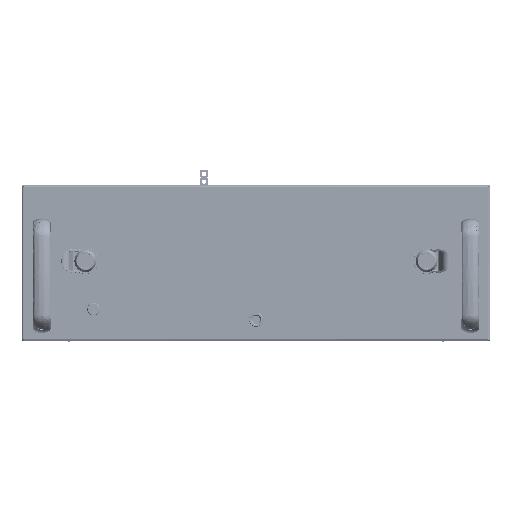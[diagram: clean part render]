
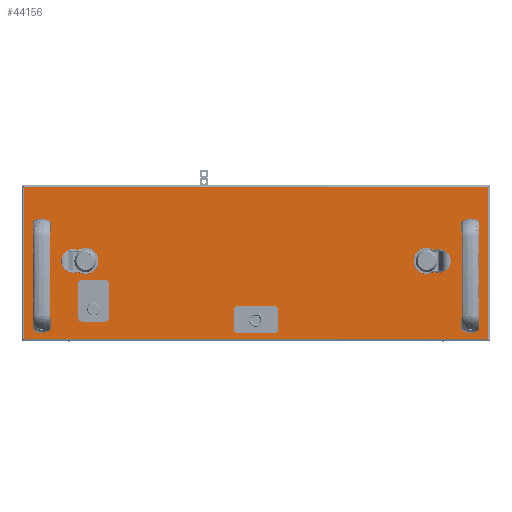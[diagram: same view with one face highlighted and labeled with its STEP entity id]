
A CAD part, front view. The second image highlights one B-rep face of the part: STEP entity #44156.
In plain terms, the highlighted planar face has unit normal (0, -1, 0) as drawn and (0, 0, 1) by its records, which use the part's own axes.
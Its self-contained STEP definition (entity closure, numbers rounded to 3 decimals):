
#41791=CARTESIAN_POINT(' ',(591.7,194.7,0.));
#41796=DIRECTION(' ',(-1.,0.,0.));
#41801=VECTOR(' ',#41796,1.);
#41806=LINE('',#41791,#41801);
#41811=CARTESIAN_POINT(' ',(591.7,194.7,0.));
#41812=VERTEX_POINT(' ',#41811);
#41816=CARTESIAN_POINT(' ',(2.3,194.7,0.));
#41817=VERTEX_POINT(' ',#41816);
#41821=EDGE_CURVE(' ',#41812,#41817,#41806,.T.);
#43346=DIRECTION(' ',(-0.,-0.,1.));
#43351=CARTESIAN_POINT(' ',(591.7,2.3,0.));
#43356=DIRECTION(' ',(0.,1.,0.));
#43361=AXIS2_PLACEMENT_3D(' ',#43351,#43346,#43356);
#43366=PLANE('NONE',#43361);
#43371=CARTESIAN_POINT(' ',(2.3,2.3,0.));
#43376=DIRECTION(' ',(1.,0.,0.));
#43381=VECTOR(' ',#43376,1.);
#43386=LINE('',#43371,#43381);
#43391=CARTESIAN_POINT(' ',(2.3,2.3,0.));
#43392=VERTEX_POINT(' ',#43391);
#43396=CARTESIAN_POINT(' ',(591.7,2.3,0.));
#43397=VERTEX_POINT(' ',#43396);
#43401=EDGE_CURVE(' ',#43392,#43397,#43386,.T.);
#43406=ORIENTED_EDGE(' ',*,*,#43401,.T.);
#43411=CARTESIAN_POINT(' ',(591.7,194.7,0.));
#43416=DIRECTION(' ',(0.,-1.,0.));
#43421=VECTOR(' ',#43416,1.);
#43426=LINE('',#43411,#43421);
#43431=EDGE_CURVE(' ',#41812,#43397,#43426,.T.);
#43436=ORIENTED_EDGE(' ',*,*,#43431,.F.);
#43441=ORIENTED_EDGE(' ',*,*,#41821,.T.);
#43446=CARTESIAN_POINT(' ',(2.3,194.7,0.));
#43451=DIRECTION(' ',(0.,-1.,0.));
#43456=VECTOR(' ',#43451,1.);
#43461=LINE('',#43446,#43456);
#43466=EDGE_CURVE(' ',#41817,#43392,#43461,.T.);
#43471=ORIENTED_EDGE(' ',*,*,#43466,.T.);
#43476=EDGE_LOOP(' ',(#43406,#43436,#43441,#43471));
#43481=FACE_OUTER_BOUND(' ',#43476,.T.);
#43486=CARTESIAN_POINT(' ',(110.85,30.,0.));
#43491=DIRECTION(' ',(0.,1.,0.));
#43496=VECTOR(' ',#43491,1.);
#43501=LINE('',#43486,#43496);
#43506=CARTESIAN_POINT(' ',(110.85,30.,0.));
#43507=VERTEX_POINT(' ',#43506);
#43511=CARTESIAN_POINT(' ',(110.85,71.,0.));
#43512=VERTEX_POINT(' ',#43511);
#43516=EDGE_CURVE(' ',#43507,#43512,#43501,.T.);
#43521=ORIENTED_EDGE(' ',*,*,#43516,.F.);
#43526=CARTESIAN_POINT(' ',(104.85,30.,0.));
#43531=DIRECTION(' ',(0.,-0.,1.));
#43536=DIRECTION(' ',(0.,-1.,0.));
#43541=AXIS2_PLACEMENT_3D(' ',#43526,#43531,#43536);
#43546=CIRCLE('',#43541,6.);
#43551=CARTESIAN_POINT(' ',(104.85,24.,0.));
#43552=VERTEX_POINT(' ',#43551);
#43556=EDGE_CURVE(' ',#43552,#43507,#43546,.T.);
#43561=ORIENTED_EDGE(' ',*,*,#43556,.F.);
#43566=CARTESIAN_POINT(' ',(76.85,24.,0.));
#43571=DIRECTION(' ',(1.,0.,0.));
#43576=VECTOR(' ',#43571,1.);
#43581=LINE('',#43566,#43576);
#43586=CARTESIAN_POINT(' ',(76.85,24.,0.));
#43587=VERTEX_POINT(' ',#43586);
#43591=EDGE_CURVE(' ',#43587,#43552,#43581,.T.);
#43596=ORIENTED_EDGE(' ',*,*,#43591,.F.);
#43601=CARTESIAN_POINT(' ',(76.85,30.,0.));
#43606=DIRECTION(' ',(-0.,-0.,1.));
#43611=DIRECTION(' ',(-1.,0.,0.));
#43616=AXIS2_PLACEMENT_3D(' ',#43601,#43606,#43611);
#43621=CIRCLE('',#43616,6.);
#43626=CARTESIAN_POINT(' ',(70.85,30.,0.));
#43627=VERTEX_POINT(' ',#43626);
#43631=EDGE_CURVE(' ',#43627,#43587,#43621,.T.);
#43636=ORIENTED_EDGE(' ',*,*,#43631,.F.);
#43641=CARTESIAN_POINT(' ',(70.85,71.,0.));
#43646=DIRECTION(' ',(0.,-1.,0.));
#43651=VECTOR(' ',#43646,1.);
#43656=LINE('',#43641,#43651);
#43661=CARTESIAN_POINT(' ',(70.85,71.,0.));
#43662=VERTEX_POINT(' ',#43661);
#43666=EDGE_CURVE(' ',#43662,#43627,#43656,.T.);
#43671=ORIENTED_EDGE(' ',*,*,#43666,.F.);
#43676=CARTESIAN_POINT(' ',(76.85,71.,0.));
#43681=DIRECTION(' ',(0.,0.,1.));
#43686=DIRECTION(' ',(0.,1.,0.));
#43691=AXIS2_PLACEMENT_3D(' ',#43676,#43681,#43686);
#43696=CIRCLE('',#43691,6.);
#43701=CARTESIAN_POINT(' ',(76.85,77.,0.));
#43702=VERTEX_POINT(' ',#43701);
#43706=EDGE_CURVE(' ',#43702,#43662,#43696,.T.);
#43711=ORIENTED_EDGE(' ',*,*,#43706,.F.);
#43716=CARTESIAN_POINT(' ',(104.85,77.,0.));
#43721=DIRECTION(' ',(-1.,0.,0.));
#43726=VECTOR(' ',#43721,1.);
#43731=LINE('',#43716,#43726);
#43736=CARTESIAN_POINT(' ',(104.85,77.,0.));
#43737=VERTEX_POINT(' ',#43736);
#43741=EDGE_CURVE(' ',#43737,#43702,#43731,.T.);
#43746=ORIENTED_EDGE(' ',*,*,#43741,.F.);
#43751=CARTESIAN_POINT(' ',(104.85,71.,0.));
#43756=DIRECTION(' ',(0.,0.,1.));
#43761=DIRECTION(' ',(1.,0.,0.));
#43766=AXIS2_PLACEMENT_3D(' ',#43751,#43756,#43761);
#43771=CIRCLE('',#43766,6.);
#43776=EDGE_CURVE(' ',#43512,#43737,#43771,.T.);
#43781=ORIENTED_EDGE(' ',*,*,#43776,.F.);
#43786=EDGE_LOOP(' ',(#43521,#43561,#43596,#43636,#43671,#43711,#43746,#43781));
#43791=FACE_BOUND(' ',#43786,.T.);
#43796=CARTESIAN_POINT(' ',(297.,26.5,0.));
#43801=DIRECTION(' ',(0.,-0.,-1.));
#43806=DIRECTION(' ',(-1.,0.,0.));
#43811=AXIS2_PLACEMENT_3D(' ',#43796,#43801,#43806);
#43816=CIRCLE('',#43811,10.);
#43821=CARTESIAN_POINT(' ',(287.,26.5,0.));
#43822=VERTEX_POINT(' ',#43821);
#43826=CARTESIAN_POINT(' ',(307.,26.5,0.));
#43827=VERTEX_POINT(' ',#43826);
#43831=EDGE_CURVE(' ',#43822,#43827,#43816,.T.);
#43836=ORIENTED_EDGE(' ',*,*,#43831,.T.);
#43841=CARTESIAN_POINT(' ',(297.,26.5,0.));
#43846=DIRECTION(' ',(0.,0.,-1.));
#43851=DIRECTION(' ',(1.,0.,0.));
#43856=AXIS2_PLACEMENT_3D(' ',#43841,#43846,#43851);
#43861=CIRCLE('',#43856,10.);
#43866=EDGE_CURVE(' ',#43827,#43822,#43861,.T.);
#43871=ORIENTED_EDGE(' ',*,*,#43866,.T.);
#43876=EDGE_LOOP(' ',(#43836,#43871));
#43881=FACE_BOUND(' ',#43876,.T.);
#43886=CARTESIAN_POINT(' ',(569.,143.5,0.));
#43891=DIRECTION(' ',(0.,0.,-1.));
#43896=DIRECTION(' ',(-1.,0.,0.));
#43901=AXIS2_PLACEMENT_3D(' ',#43886,#43891,#43896);
#43906=CIRCLE('',#43901,3.75);
#43911=CARTESIAN_POINT(' ',(565.25,143.5,0.));
#43912=VERTEX_POINT(' ',#43911);
#43916=CARTESIAN_POINT(' ',(572.75,143.5,0.));
#43917=VERTEX_POINT(' ',#43916);
#43921=EDGE_CURVE(' ',#43912,#43917,#43906,.T.);
#43926=ORIENTED_EDGE(' ',*,*,#43921,.T.);
#43931=CARTESIAN_POINT(' ',(569.,143.5,0.));
#43936=DIRECTION(' ',(0.,0.,-1.));
#43941=DIRECTION(' ',(1.,0.,0.));
#43946=AXIS2_PLACEMENT_3D(' ',#43931,#43936,#43941);
#43951=CIRCLE('',#43946,3.75);
#43956=EDGE_CURVE(' ',#43917,#43912,#43951,.T.);
#43961=ORIENTED_EDGE(' ',*,*,#43956,.T.);
#43966=EDGE_LOOP(' ',(#43926,#43961));
#43971=FACE_BOUND(' ',#43966,.T.);
#43976=CARTESIAN_POINT(' ',(25.,23.5,0.));
#43981=DIRECTION(' ',(0.,0.,-1.));
#43986=DIRECTION(' ',(-1.,0.,0.));
#43991=AXIS2_PLACEMENT_3D(' ',#43976,#43981,#43986);
#43996=CIRCLE('',#43991,3.75);
#44001=CARTESIAN_POINT(' ',(21.25,23.5,0.));
#44002=VERTEX_POINT(' ',#44001);
#44006=CARTESIAN_POINT(' ',(28.75,23.5,0.));
#44007=VERTEX_POINT(' ',#44006);
#44011=EDGE_CURVE(' ',#44002,#44007,#43996,.T.);
#44016=ORIENTED_EDGE(' ',*,*,#44011,.T.);
#44021=CARTESIAN_POINT(' ',(25.,23.5,0.));
#44026=DIRECTION(' ',(0.,0.,-1.));
#44031=DIRECTION(' ',(1.,0.,0.));
#44036=AXIS2_PLACEMENT_3D(' ',#44021,#44026,#44031);
#44041=CIRCLE('',#44036,3.75);
#44046=EDGE_CURVE(' ',#44007,#44002,#44041,.T.);
#44051=ORIENTED_EDGE(' ',*,*,#44046,.T.);
#44056=EDGE_LOOP(' ',(#44016,#44051));
#44061=FACE_BOUND(' ',#44056,.T.);
#44066=CARTESIAN_POINT(' ',(25.,143.5,0.));
#44071=DIRECTION(' ',(0.,0.,-1.));
#44076=DIRECTION(' ',(-1.,0.,0.));
#44081=AXIS2_PLACEMENT_3D(' ',#44066,#44071,#44076);
#44086=CIRCLE('',#44081,3.75);
#44091=CARTESIAN_POINT(' ',(21.25,143.5,0.));
#44092=VERTEX_POINT(' ',#44091);
#44096=CARTESIAN_POINT(' ',(28.75,143.5,0.));
#44097=VERTEX_POINT(' ',#44096);
#44101=EDGE_CURVE(' ',#44092,#44097,#44086,.T.);
#44106=ORIENTED_EDGE(' ',*,*,#44101,.T.);
#44111=CARTESIAN_POINT(' ',(25.,143.5,0.));
#44116=DIRECTION(' ',(0.,0.,-1.));
#44121=DIRECTION(' ',(1.,0.,0.));
#44126=AXIS2_PLACEMENT_3D(' ',#44111,#44116,#44121);
#44131=CIRCLE('',#44126,3.75);
#44136=EDGE_CURVE(' ',#44097,#44092,#44131,.T.);
#44141=ORIENTED_EDGE(' ',*,*,#44136,.T.);
#44146=EDGE_LOOP(' ',(#44106,#44141));
#44151=FACE_BOUND(' ',#44146,.T.);
#44156=ADVANCED_FACE('NONE',(#43481,#43791,#43881,#43971,#44061,#44151),#43366,.T.);
